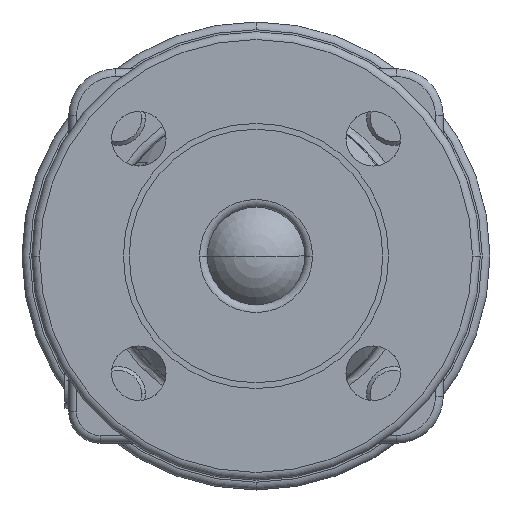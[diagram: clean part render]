
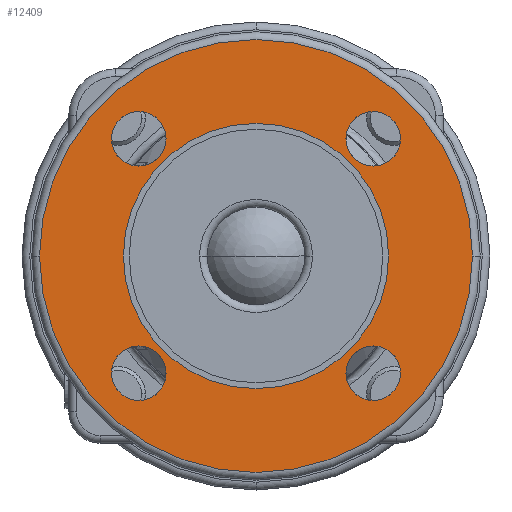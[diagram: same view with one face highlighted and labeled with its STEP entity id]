
A CAD part, left-side view. The second image highlights one B-rep face of the part: STEP entity #12409.
In plain terms, the highlighted planar face has unit normal (-1, 0, 0).
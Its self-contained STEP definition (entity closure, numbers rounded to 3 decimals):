
#1705=CARTESIAN_POINT('',(-47.,0.,0.));
#1706=DIRECTION('',(1.,0.,0.));
#1707=DIRECTION('',(0.,1.,0.));
#1708=AXIS2_PLACEMENT_3D('',#1705,#1706,#1707);
#1710=CARTESIAN_POINT('',(-47.,0.,0.));
#1711=DIRECTION('',(1.,0.,0.));
#1712=DIRECTION('',(0.,-1.,0.));
#1713=AXIS2_PLACEMENT_3D('',#1710,#1711,#1712);
#1715=CARTESIAN_POINT('',(-47.,0.,0.));
#1716=DIRECTION('',(-1.,0.,0.));
#1717=DIRECTION('',(0.,1.,0.));
#1718=AXIS2_PLACEMENT_3D('',#1715,#1716,#1717);
#1720=CARTESIAN_POINT('',(-47.,0.,0.));
#1721=DIRECTION('',(-1.,0.,0.));
#1722=DIRECTION('',(0.,-1.,0.));
#1723=AXIS2_PLACEMENT_3D('',#1720,#1721,#1722);
#1725=CARTESIAN_POINT('',(-47.,30.052,30.052));
#1726=DIRECTION('',(-1.,0.,0.));
#1727=DIRECTION('',(0.,-1.,0.));
#1728=AXIS2_PLACEMENT_3D('',#1725,#1726,#1727);
#1730=CARTESIAN_POINT('',(-47.,30.052,30.052));
#1731=DIRECTION('',(-1.,0.,0.));
#1732=DIRECTION('',(0.,1.,0.));
#1733=AXIS2_PLACEMENT_3D('',#1730,#1731,#1732);
#1735=CARTESIAN_POINT('',(-47.,-30.052,30.052));
#1736=DIRECTION('',(-1.,0.,0.));
#1737=DIRECTION('',(0.,0.,-1.));
#1738=AXIS2_PLACEMENT_3D('',#1735,#1736,#1737);
#1740=CARTESIAN_POINT('',(-47.,-30.052,30.052));
#1741=DIRECTION('',(-1.,0.,0.));
#1742=DIRECTION('',(0.,0.,1.));
#1743=AXIS2_PLACEMENT_3D('',#1740,#1741,#1742);
#1745=CARTESIAN_POINT('',(-47.,-30.052,-30.052));
#1746=DIRECTION('',(-1.,0.,0.));
#1747=DIRECTION('',(0.,1.,0.));
#1748=AXIS2_PLACEMENT_3D('',#1745,#1746,#1747);
#1750=CARTESIAN_POINT('',(-47.,-30.052,-30.052));
#1751=DIRECTION('',(-1.,0.,0.));
#1752=DIRECTION('',(0.,-1.,0.));
#1753=AXIS2_PLACEMENT_3D('',#1750,#1751,#1752);
#1755=CARTESIAN_POINT('',(-47.,30.052,-30.052));
#1756=DIRECTION('',(-1.,0.,0.));
#1757=DIRECTION('',(0.,0.,1.));
#1758=AXIS2_PLACEMENT_3D('',#1755,#1756,#1757);
#1760=CARTESIAN_POINT('',(-47.,30.052,-30.052));
#1761=DIRECTION('',(-1.,0.,0.));
#1762=DIRECTION('',(0.,0.,-1.));
#1763=AXIS2_PLACEMENT_3D('',#1760,#1761,#1762);
#7992=CARTESIAN_POINT('',(-47.,-34.,0.));
#7993=VERTEX_POINT('',#7992);
#7994=CARTESIAN_POINT('',(-47.,34.,0.));
#7995=VERTEX_POINT('',#7994);
#7996=CARTESIAN_POINT('',(-47.,55.5,0.));
#7997=CARTESIAN_POINT('',(-47.,-55.5,0.));
#7998=VERTEX_POINT('',#7996);
#7999=VERTEX_POINT('',#7997);
#8000=CARTESIAN_POINT('',(-47.,23.052,30.052));
#8001=CARTESIAN_POINT('',(-47.,37.052,30.052));
#8002=VERTEX_POINT('',#8000);
#8003=VERTEX_POINT('',#8001);
#8004=CARTESIAN_POINT('',(-47.,-30.052,23.052));
#8005=CARTESIAN_POINT('',(-47.,-30.052,37.052));
#8006=VERTEX_POINT('',#8004);
#8007=VERTEX_POINT('',#8005);
#8008=CARTESIAN_POINT('',(-47.,-23.052,-30.052));
#8009=CARTESIAN_POINT('',(-47.,-37.052,-30.052));
#8010=VERTEX_POINT('',#8008);
#8011=VERTEX_POINT('',#8009);
#8012=CARTESIAN_POINT('',(-47.,30.052,-23.052));
#8013=CARTESIAN_POINT('',(-47.,30.052,-37.052));
#8014=VERTEX_POINT('',#8012);
#8015=VERTEX_POINT('',#8013);
#12369=CARTESIAN_POINT('',(-47.,0.,0.));
#12370=DIRECTION('',(1.,0.,0.));
#12371=DIRECTION('',(0.,1.,0.));
#12372=AXIS2_PLACEMENT_3D('',#12369,#12370,#12371);
#12373=PLANE('',#12372);
#12375=ORIENTED_EDGE('',*,*,#12374,.T.);
#12376=ORIENTED_EDGE('',*,*,#12359,.T.);
#12377=EDGE_LOOP('',(#12375,#12376));
#12378=FACE_OUTER_BOUND('',#12377,.F.);
#12380=ORIENTED_EDGE('',*,*,#12379,.T.);
#12382=ORIENTED_EDGE('',*,*,#12381,.T.);
#12383=EDGE_LOOP('',(#12380,#12382));
#12384=FACE_BOUND('',#12383,.F.);
#12386=ORIENTED_EDGE('',*,*,#12385,.T.);
#12388=ORIENTED_EDGE('',*,*,#12387,.T.);
#12389=EDGE_LOOP('',(#12386,#12388));
#12390=FACE_BOUND('',#12389,.F.);
#12392=ORIENTED_EDGE('',*,*,#12391,.T.);
#12394=ORIENTED_EDGE('',*,*,#12393,.T.);
#12395=EDGE_LOOP('',(#12392,#12394));
#12396=FACE_BOUND('',#12395,.F.);
#12398=ORIENTED_EDGE('',*,*,#12397,.T.);
#12400=ORIENTED_EDGE('',*,*,#12399,.T.);
#12401=EDGE_LOOP('',(#12398,#12400));
#12402=FACE_BOUND('',#12401,.F.);
#12404=ORIENTED_EDGE('',*,*,#12403,.T.);
#12406=ORIENTED_EDGE('',*,*,#12405,.T.);
#12407=EDGE_LOOP('',(#12404,#12406));
#12408=FACE_BOUND('',#12407,.F.);
#12409=ADVANCED_FACE('',(#12378,#12384,#12390,#12396,#12402,#12408),#12373,.F.);
#1709=CIRCLE('',#1708,55.5);
#1714=CIRCLE('',#1713,55.5);
#1719=CIRCLE('',#1718,34.);
#1724=CIRCLE('',#1723,34.);
#1729=CIRCLE('',#1728,7.);
#1734=CIRCLE('',#1733,7.);
#1739=CIRCLE('',#1738,7.);
#1744=CIRCLE('',#1743,7.);
#1749=CIRCLE('',#1748,7.);
#1754=CIRCLE('',#1753,7.);
#1759=CIRCLE('',#1758,7.);
#1764=CIRCLE('',#1763,7.);
#12359=EDGE_CURVE('',#7999,#7998,#1714,.T.);
#12374=EDGE_CURVE('',#7998,#7999,#1709,.T.);
#12379=EDGE_CURVE('',#7995,#7993,#1719,.T.);
#12381=EDGE_CURVE('',#7993,#7995,#1724,.T.);
#12385=EDGE_CURVE('',#8002,#8003,#1729,.T.);
#12387=EDGE_CURVE('',#8003,#8002,#1734,.T.);
#12391=EDGE_CURVE('',#8006,#8007,#1739,.T.);
#12393=EDGE_CURVE('',#8007,#8006,#1744,.T.);
#12397=EDGE_CURVE('',#8010,#8011,#1749,.T.);
#12399=EDGE_CURVE('',#8011,#8010,#1754,.T.);
#12403=EDGE_CURVE('',#8014,#8015,#1759,.T.);
#12405=EDGE_CURVE('',#8015,#8014,#1764,.T.);
